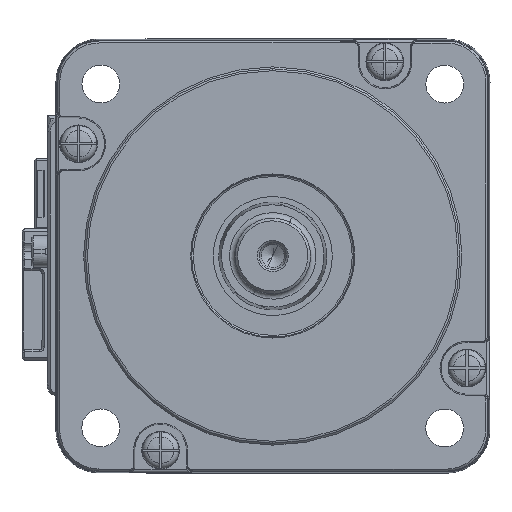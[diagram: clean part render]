
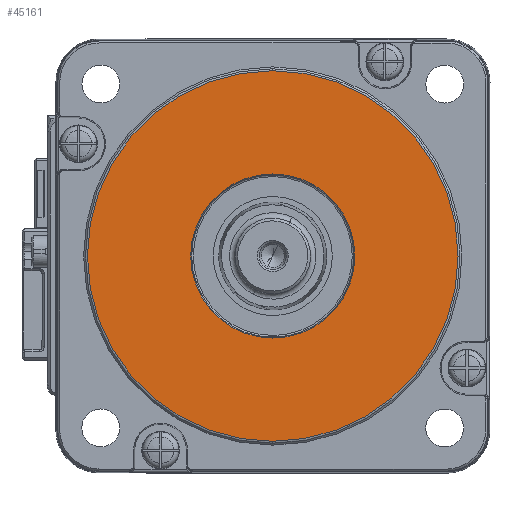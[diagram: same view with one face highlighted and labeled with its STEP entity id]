
A CAD part, left-side view. The second image highlights one B-rep face of the part: STEP entity #45161.
In plain terms, the highlighted planar face has unit normal (-1, 0, 0) as drawn and (0, 0, 1) by its records, which use the part's own axes.
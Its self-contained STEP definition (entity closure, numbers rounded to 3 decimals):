
#86 = DIRECTION ( 'NONE',  ( 0., 0., -1. ) ) ;
#2384 = DIRECTION ( 'NONE',  ( 1., 0., 0. ) ) ;
#4053 = CARTESIAN_POINT ( 'NONE',  ( 100., 0., 0. ) ) ;
#10308 = AXIS2_PLACEMENT_3D ( 'NONE', #12087, #43283, #2384 ) ;
#11077 = VERTEX_POINT ( 'NONE', #37200 ) ;
#12087 = CARTESIAN_POINT ( 'NONE',  ( 100., 0., 0. ) ) ;
#12387 = ORIENTED_EDGE ( 'NONE', *, *, #19438, .F. ) ;
#12755 = DIRECTION ( 'NONE',  ( 0., 0., 1. ) ) ;
#13434 = DIRECTION ( 'NONE',  ( -1., 0., 0. ) ) ;
#15146 = PLANE ( 'NONE',  #46606 ) ;
#16377 = DIRECTION ( 'NONE',  ( 1., 0., 0. ) ) ;
#19438 = EDGE_CURVE ( 'NONE', #29180, #51265, #36084, .T. ) ;
#19864 = FACE_BOUND ( 'NONE', #39436, .T. ) ;
#22504 = CARTESIAN_POINT ( 'NONE',  ( 84.818, 0., 0. ) ) ;
#24856 = DIRECTION ( 'NONE',  ( 0., 0., 1. ) ) ;
#25065 = ORIENTED_EDGE ( 'NONE', *, *, #25491, .T. ) ;
#25448 = ORIENTED_EDGE ( 'NONE', *, *, #26637, .T. ) ;
#25491 = EDGE_CURVE ( 'NONE', #11077, #60187, #39748, .T. ) ;
#26637 = EDGE_CURVE ( 'NONE', #60187, #11077, #33467, .T. ) ;
#26770 = FACE_OUTER_BOUND ( 'NONE', #27397, .T. ) ;
#27397 = EDGE_LOOP ( 'NONE', ( #25065, #25448 ) ) ;
#28848 = DIRECTION ( 'NONE',  ( -1., 0., 0. ) ) ;
#29180 = VERTEX_POINT ( 'NONE', #22504 ) ;
#33467 = CIRCLE ( 'NONE', #39890, 34.293 ) ;
#34825 = CARTESIAN_POINT ( 'NONE',  ( 134.293, 0., 0. ) ) ;
#34977 = CIRCLE ( 'NONE', #10308, 15.182 ) ;
#35306 = CARTESIAN_POINT ( 'NONE',  ( 100., 0., 0. ) ) ;
#36084 = CIRCLE ( 'NONE', #66012, 15.182 ) ;
#37200 = CARTESIAN_POINT ( 'NONE',  ( 65.707, 0., 0. ) ) ;
#39436 = EDGE_LOOP ( 'NONE', ( #57441, #12387 ) ) ;
#39748 = CIRCLE ( 'NONE', #45084, 34.293 ) ;
#39890 = AXIS2_PLACEMENT_3D ( 'NONE', #4053, #59390, #13434 ) ;
#43283 = DIRECTION ( 'NONE',  ( 0., 0., 1. ) ) ;
#45084 = AXIS2_PLACEMENT_3D ( 'NONE', #63728, #12755, #28848 ) ;
#45161 = ADVANCED_FACE ( 'NONE', ( #26770, #19864 ), #15146, .F. ) ;
#45310 = DIRECTION ( 'NONE',  ( 1., 0., 0. ) ) ;
#46606 = AXIS2_PLACEMENT_3D ( 'NONE', #35306, #86, #16377 ) ;
#50519 = EDGE_CURVE ( 'NONE', #51265, #29180, #34977, .T. ) ;
#51265 = VERTEX_POINT ( 'NONE', #57810 ) ;
#57029 = CARTESIAN_POINT ( 'NONE',  ( 100., 0., 0. ) ) ;
#57441 = ORIENTED_EDGE ( 'NONE', *, *, #50519, .F. ) ;
#57810 = CARTESIAN_POINT ( 'NONE',  ( 115.182, 0., 0. ) ) ;
#59390 = DIRECTION ( 'NONE',  ( 0., 0., 1. ) ) ;
#60187 = VERTEX_POINT ( 'NONE', #34825 ) ;
#63728 = CARTESIAN_POINT ( 'NONE',  ( 100., 0., 0. ) ) ;
#66012 = AXIS2_PLACEMENT_3D ( 'NONE', #57029, #24856, #45310 ) ;
